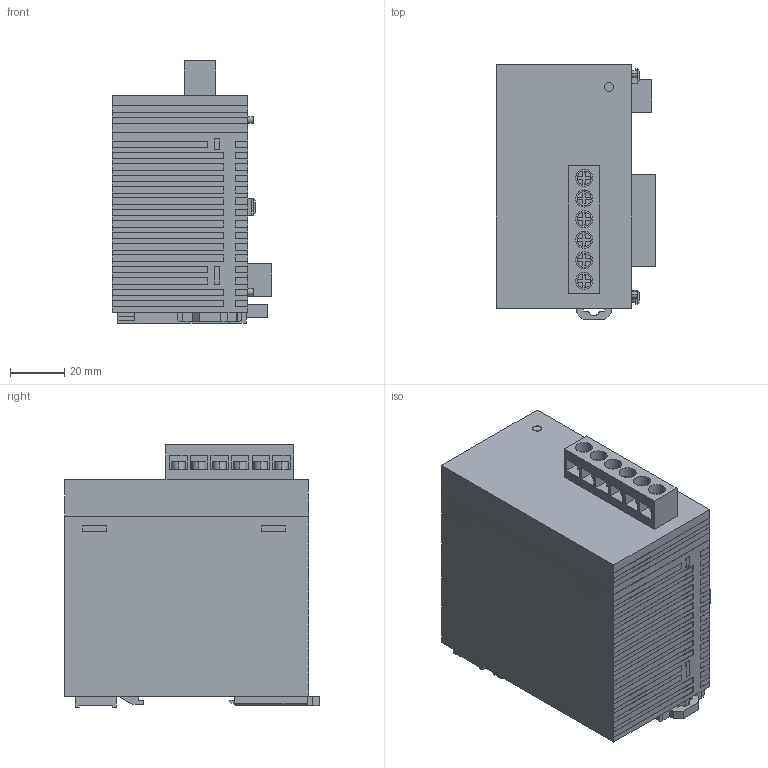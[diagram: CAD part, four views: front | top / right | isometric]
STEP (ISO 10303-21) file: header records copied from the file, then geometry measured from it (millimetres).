
FILE_DESCRIPTION (( 'STEP AP203' ), '1' );
FILE_NAME ('afp7psa1.STEP', '2013-03-14T04:31:59', ( 'sunx' ), ( 'sunx' ), 'SwSTEP 2.0', 'SolidWorks 2010', '' );
FILE_SCHEMA (( 'CONFIG_CONTROL_DESIGN' ));
Length unit declared in the file: millimetre
Products named in the file (1): afp7psa1
Bounding box: 59 x 94 x 96.8 mm (x, y, z)
Volume: 369825.8 mm3; surface area: 39587.5 mm2
Topology: 1 solids, 1 shells, 632 faces, 1796 edges, 1192 vertices
Faces by surface type: plane 592, cylinder 40
Entity records: 20297 total; most frequent: CARTESIAN_POINT 3621, ORIENTED_EDGE 3592, DIRECTION 3178, EDGE_CURVE 1796, VECTOR 1680, LINE 1680, VERTEX_POINT 1192, AXIS2_PLACEMENT_3D 749
